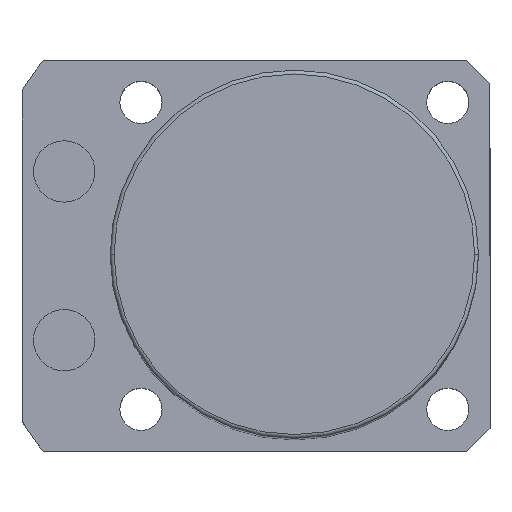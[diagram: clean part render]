
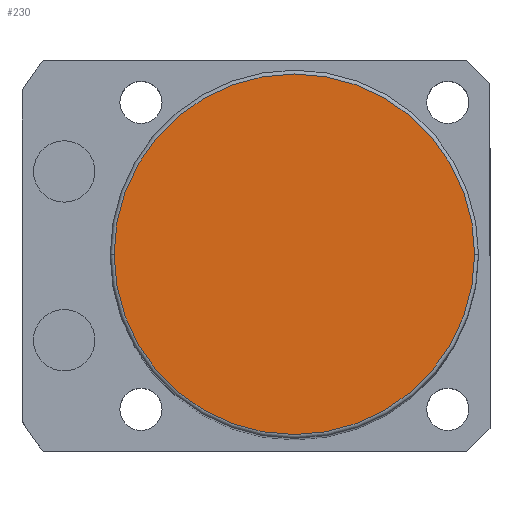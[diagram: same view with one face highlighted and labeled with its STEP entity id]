
A CAD part, top view. The second image highlights one B-rep face of the part: STEP entity #230.
In plain terms, the highlighted planar face has unit normal (0, 0, 1).
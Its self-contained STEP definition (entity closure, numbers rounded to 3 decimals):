
#41 = CARTESIAN_POINT ( 'NONE',  ( 23.5, 0., 131. ) ) ;
#82 = CARTESIAN_POINT ( 'NONE',  ( 0., 0., 131. ) ) ;
#230 = ADVANCED_FACE ( 'NONE', ( #1280 ), #995, .T. ) ;
#273 = DIRECTION ( 'NONE',  ( 1., 0., 0. ) ) ;
#280 = EDGE_CURVE ( 'NONE', #1416, #752, #1709, .T. ) ;
#435 = CARTESIAN_POINT ( 'NONE',  ( 0., 0., 131. ) ) ;
#600 = ORIENTED_EDGE ( 'NONE', *, *, #280, .T. ) ;
#634 = CARTESIAN_POINT ( 'NONE',  ( -23.5, 0., 131. ) ) ;
#733 = AXIS2_PLACEMENT_3D ( 'NONE', #82, #2116, #1392 ) ;
#752 = VERTEX_POINT ( 'NONE', #634 ) ;
#800 = EDGE_LOOP ( 'NONE', ( #600, #1294 ) ) ;
#883 = AXIS2_PLACEMENT_3D ( 'NONE', #1585, #1757, #273 ) ;
#995 = PLANE ( 'NONE',  #733 ) ;
#1280 = FACE_OUTER_BOUND ( 'NONE', #800, .T. ) ;
#1294 = ORIENTED_EDGE ( 'NONE', *, *, #1790, .T. ) ;
#1392 = DIRECTION ( 'NONE',  ( 1., 0., 0. ) ) ;
#1416 = VERTEX_POINT ( 'NONE', #41 ) ;
#1515 = AXIS2_PLACEMENT_3D ( 'NONE', #435, #1551, #1900 ) ;
#1551 = DIRECTION ( 'NONE',  ( 0., 0., 1. ) ) ;
#1585 = CARTESIAN_POINT ( 'NONE',  ( 0., 0., 131. ) ) ;
#1709 = CIRCLE ( 'NONE', #883, 23.5 ) ;
#1757 = DIRECTION ( 'NONE',  ( 0., 0., 1. ) ) ;
#1790 = EDGE_CURVE ( 'NONE', #752, #1416, #2373, .T. ) ;
#1900 = DIRECTION ( 'NONE',  ( 1., 0., 0. ) ) ;
#2116 = DIRECTION ( 'NONE',  ( 0., 0., 1. ) ) ;
#2373 = CIRCLE ( 'NONE', #1515, 23.5 ) ;
